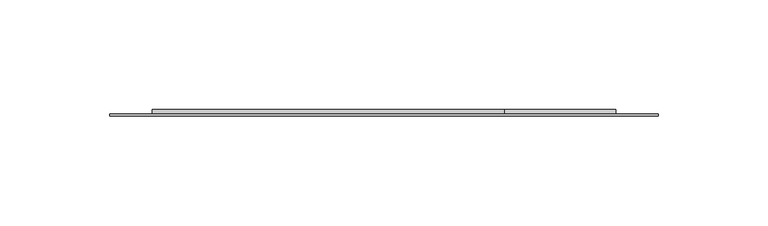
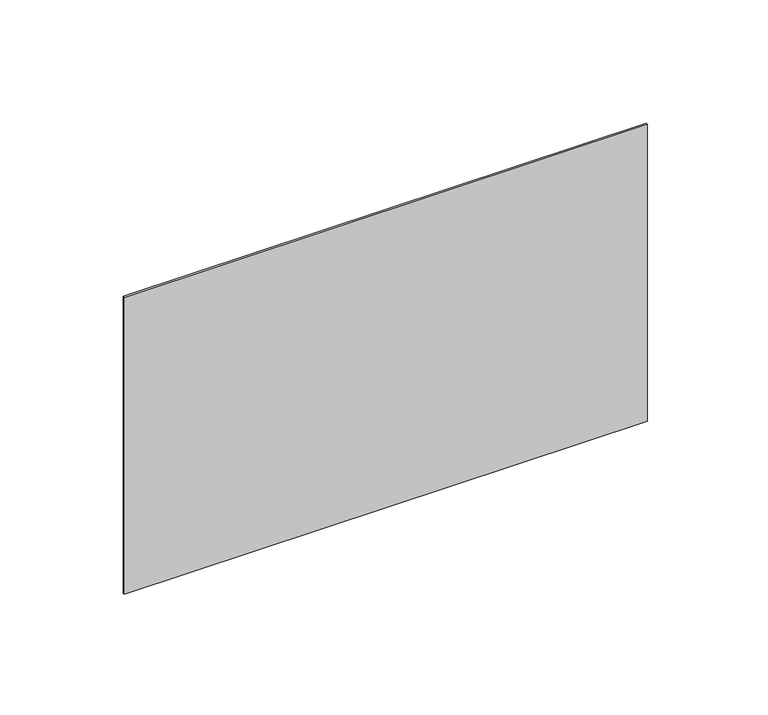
"""IFC4 building model written with IfcOpenShell, lengths in millimetres: light fixture geometry, ▲LF_Знак_в_модели : ▲LF_Знак_в_модели."""

from ifc_helpers import new_model, si_unit, frame, origin, place, context, project, spatial, polyline, outline, extrude, source, transform, mapped, element, save


def light_fixture_98ed1024(model_context):
    return source(origin(), model_context, "Body", "SweptSolid", [
        extrude(outline(polyline([(-85.1911119, 61.5053885), (-109.0394115, 55.1152559), (-75.0, 105.5807588), (-40.9605885, 55.1152559), (-64.8088881, 61.5053885), (-64.8088881, -105.5807588), (-85.1911119, -105.5807588), (-85.1911119, 61.5053885)])), frame((0.0, 1.0, 0.0), z_axis=(0.0, 1.0, 0.0), x_axis=(0.0, 0.0, 1.0)), (0.0, 0.0, 1.0), 2.0),
        extrude(outline(polyline([(125.0, 0.0), (-125.0, 0.0), (-125.0, 1.0), (125.0, 1.0), (125.0, 0.0)])), frame((0.0, 0.0, -150.0), z_axis=(0.0, 0.0, 1.0), x_axis=(1.0, 0.0, 0.0)), (0.0, 0.0, 1.0), 150.0),
    ])


if __name__ == "__main__":
    model = new_model("IFC4")
    model_context = context("Model", 3, world=origin())
    ifc_project = project(units=[si_unit("LENGTHUNIT", "METRE", prefix="MILLI")], contexts=[model_context])
    site = spatial("IfcSite", under=ifc_project)
    building = spatial("IfcBuilding", under=site)
    placement = place(None, origin())
    light_fixture_shape = light_fixture_98ed1024(model_context)
    element("IfcLightFixture", 1, ObjectType="▲LF_Знак_в_модели : ▲LF_Знак_в_модели", at=placement, inside=building, context=model_context, shape_type="MappedRepresentation", body=[
        mapped(light_fixture_shape, transform((0.0, 0.0, 0.0), x_axis=(1.0, 0.0, 0.0), y_axis=(0.0, 1.0, 0.0), z_axis=(0.0, 0.0, 1.0))),
    ])
    save(model, "model.ifc")
